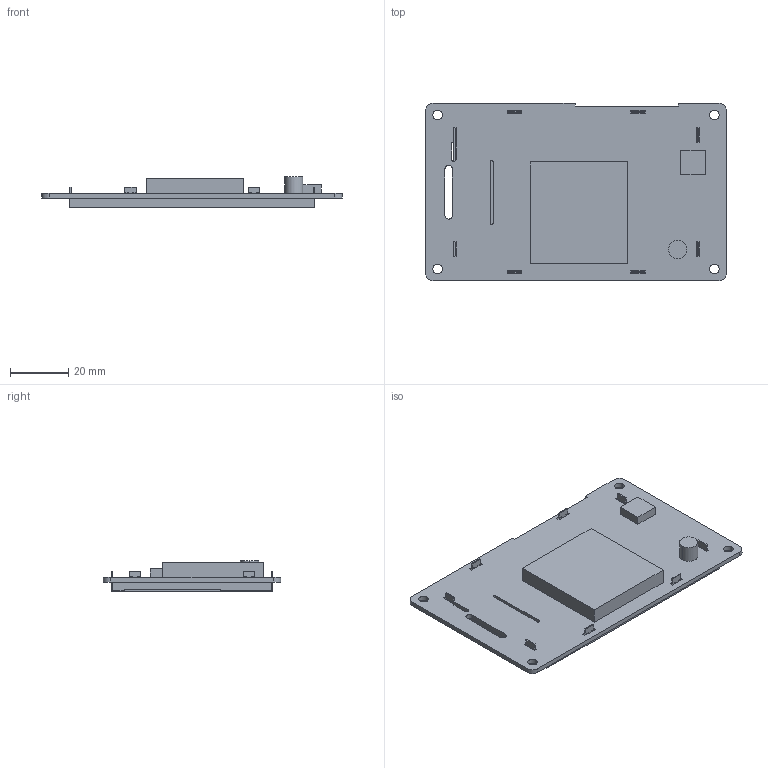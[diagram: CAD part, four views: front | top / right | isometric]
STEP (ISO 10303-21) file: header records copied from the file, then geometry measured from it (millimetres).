
FILE_DESCRIPTION((''),'2;1');
FILE_NAME('3D-DMG48320C035-03WN','2025-10-21T',('Administrator'),(''),'PRO/ENGINEER BY PARAMETRIC TECHNOLOGY CORPORATION, 2014320','PRO/ENGINEER BY PARAMETRIC TECHNOLOGY CORPORATION, 2014320','');
FILE_SCHEMA(('AUTOMOTIVE_DESIGN_CC2 { 1 2 10303 214 -1 1 5 2 }'));
Products named in the file (1): 3D-DMG48320C035-03WN
Bounding box: 103.25 x 61.09 x 10.6 mm (x, y, z)
Volume: 26493.6 mm3; surface area: 25728.8 mm2
Topology: 1 solids, 1 shells, 173 faces, 6965 edges, 11059 vertices
Faces by surface type: plane 153, cylinder 20
Entity records: 59584 total; most frequent: DIRECTION 9535, CARTESIAN_POINT 7486, CURVE_STYLE 6434, PRESENTATION_STYLE_ASSIGNMENT 6434, STYLED_ITEM 6434, TRIMMED_CURVE 6433, VECTOR 4741, LINE 4741
